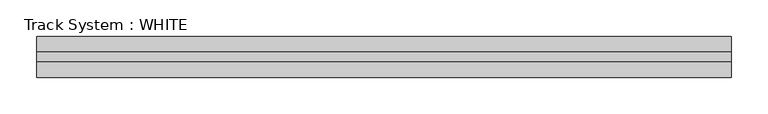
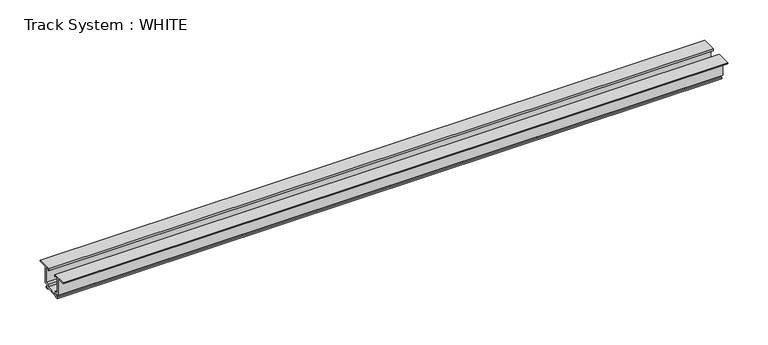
"""IFC4 building model written with IfcOpenShell, lengths in millimetres: proxy geometry, Track System : WHITE."""

from ifc_helpers import new_model, si_unit, frame, origin, place, context, project, spatial, polyline, outline, extrude, source, transform, mapped, element, save


def track_system_white_84014b1b(model_context):
    return source(origin(), model_context, "Body", "SweptSolid", [
        extrude(outline(polyline([(14.0, 0.0), (8.0, 0.0), (8.0, -1.9845872), (7.0, -1.9845872), (7.0, 1.0), (28.0, 1.0), (28.0, 0.0), (15.7, 0.0), (15.7, -25.0), (10.927466, -25.0), (10.927466, -29.5), (13.4764266, -29.5), (13.4764266, -31.5879154), (12.4547334, -31.5879154), (12.4547334, -30.6), (10.927466, -30.6), (10.927466, -31.5879154), (9.7126737, -31.5879154), (9.0, -29.5), (-9.0, -29.5), (-9.7126737, -31.5879154), (-10.927466, -31.5879154), (-10.927466, -30.6), (-12.4547334, -30.6), (-12.4547334, -31.5879154), (-13.4764266, -31.5879154), (-13.4764266, -29.5), (-10.927466, -29.5), (-10.927466, -25.0), (-15.7, -25.0), (-15.7, 0.0), (-28.0, 0.0), (-28.0, 1.0), (-7.0, 1.0), (-7.0, -1.9845872), (-8.0, -1.9845872), (-8.0, 0.0), (-14.0, 0.0), (-14.0, -23.3), (-9.0, -23.3), (-9.0, -27.25625), (9.0, -27.25625), (9.0, -23.3), (14.0, -23.3), (14.0, 0.0)])), frame((-475.0, 0.0, 0.0), z_axis=(1.0, 0.0, 0.0), x_axis=(0.0, 1.0, 0.0)), (0.0, 0.0, 1.0), 950.0),
    ])


if __name__ == "__main__":
    model = new_model("IFC4")
    model_context = context("Model", 3, world=origin())
    ifc_project = project(units=[si_unit("LENGTHUNIT", "METRE", prefix="MILLI")], contexts=[model_context])
    site = spatial("IfcSite", under=ifc_project)
    building = spatial("IfcBuilding", under=site)
    placement = place(None, origin())
    track_system_white_shape = track_system_white_84014b1b(model_context)
    element("IfcBuildingElementProxy", 1, Name="Track System : WHITE", ObjectType="Track System : WHITE", at=placement, inside=building, context=model_context, shape_type="MappedRepresentation", body=[
        mapped(track_system_white_shape, transform((0.0, 0.0, 0.0), x_axis=(1.0, 0.0, 0.0), y_axis=(0.0, 1.0, 0.0), z_axis=(0.0, 0.0, 1.0))),
    ])
    save(model, "model.ifc")
